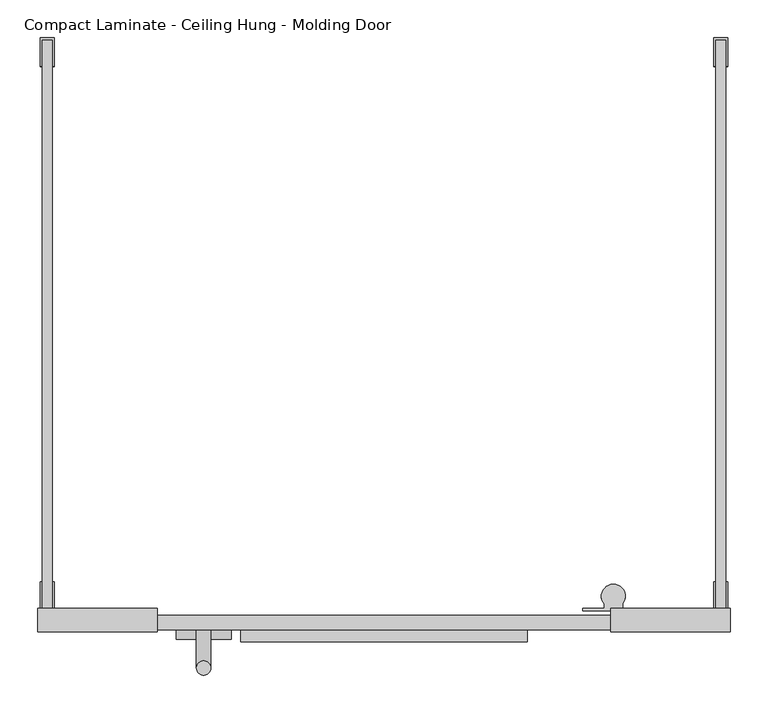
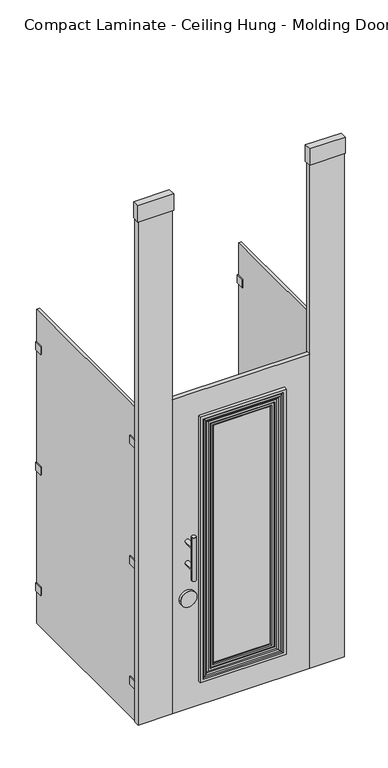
"""IFC4 building model written with IfcOpenShell, lengths in millimetres: proxy geometry, Toilet-Partition_Ironwood-Mfg_Compact-Laminate : Compact Laminate - Ceiling Hung - Molding Door."""

import ifcopenshell
import ifcopenshell.guid

model = None  # the IFC model being written
_history = None  # IfcOwnerHistory: only IFC2X3 demands one
_inside = {}  # id of a spatial element -> (the spatial element, [elements in it])
_under = {}  # id of a project, library or spatial element -> (it, [spatial elements below it])
_declared = {}  # id of a project -> (the project, [libraries it declares])
_typed = {}  # id of a type object -> (the type object, [elements of that type])
_made_of = {}  # id of a material, layer set ... -> (it, [elements and type objects made of it])


def new_model(schema):
    """Start an empty IFC model of exactly this schema.

    Asked for "IFC4X3", IfcOpenShell would pick the latest addendum, in which some entities
    have other attributes; the version numbers below select the first issue.
    IFC2X3 requires an IfcOwnerHistory on every rooted entity: one is made here for all.
    """
    global model, _history
    if schema == "IFC4X3":
        model = ifcopenshell.file(schema_version=(4, 3, 0, 0))
    else:
        model = ifcopenshell.file(schema=schema)
    _inside.clear()
    _under.clear()
    _declared.clear()
    _typed.clear()
    _made_of.clear()
    _history = None
    if model.schema == "IFC2X3":
        org = make("IfcOrganization", Name="unknown")
        user = make(
            "IfcPersonAndOrganization",
            ThePerson=make("IfcPerson", FamilyName="unknown"),
            TheOrganization=org,
        )
        app = make(
            "IfcApplication",
            ApplicationDeveloper=org,
            Version="unknown",
            ApplicationFullName="unknown",
            ApplicationIdentifier="unknown",
        )
        _history = make(
            "IfcOwnerHistory",
            OwningUser=user,
            OwningApplication=app,
            ChangeAction="ADDED",
            CreationDate=0,
        )
    return model


def make(cls, **values):
    """One entity of the class cls with the attributes given. An attribute that is None is left unset."""
    return model.create_entity(
        cls, **{name: value for name, value in values.items() if value is not None}
    )


def rooted(cls, **values):
    """An entity with a GlobalId (a new one), such as an element, a storey or a relation."""
    return make(cls, GlobalId=ifcopenshell.guid.new(), OwnerHistory=_history, **values)


def si_unit(unit_type, name, prefix=None):
    """IfcSIUnit, for example si_unit("LENGTHUNIT", "METRE", prefix="MILLI")."""
    return make("IfcSIUnit", UnitType=unit_type, Prefix=prefix, Name=name)


def assignment(units):
    """IfcUnitAssignment: the units of a project."""
    return None if units is None else make("IfcUnitAssignment", Units=units)


def point(xyz):
    """IfcCartesianPoint."""
    return None if xyz is None else make("IfcCartesianPoint", Coordinates=xyz)


def direction(xyz):
    """IfcDirection."""
    return None if xyz is None else make("IfcDirection", DirectionRatios=xyz)


def frame(location, z_axis=None, x_axis=None):
    """IfcAxis2Placement3D, a coordinate frame: its origin and axes. An axis left out is left unset."""
    return make(
        "IfcAxis2Placement3D",
        Location=point(location),
        Axis=direction(z_axis),
        RefDirection=direction(x_axis),
    )


def frame_2d(location, x_axis=None):
    """IfcAxis2Placement2D, a coordinate frame in the plane: its origin and x axis."""
    return make(
        "IfcAxis2Placement2D", Location=point(location), RefDirection=direction(x_axis)
    )


def origin():
    """The frame at (0, 0, 0) with its axes left unset."""
    return frame((0.0, 0.0, 0.0))


def place(relative_to, where):
    """IfcLocalPlacement: puts the frame where relative to a parent placement (None: the world)."""
    return make(
        "IfcLocalPlacement", PlacementRelTo=relative_to, RelativePlacement=where
    )


def context(
    kind, dimensions, precision=None, world=None, true_north=None, identifier=None
):
    """IfcGeometricRepresentationContext, for example the 3D "Model" context."""
    return make(
        "IfcGeometricRepresentationContext",
        ContextIdentifier=identifier,
        ContextType=kind,
        CoordinateSpaceDimension=dimensions,
        Precision=precision,
        WorldCoordinateSystem=world,
        TrueNorth=true_north,
    )


def project(units=None, contexts=None):
    """IfcProject with its units and contexts."""
    return rooted(
        "IfcProject",
        Name="project",
        RepresentationContexts=contexts,
        UnitsInContext=assignment(units),
    )


def spatial(cls, under=None, at=None, **own):
    """A site, building, storey or space (cls), placed at a placement, below another one or the project."""
    s = rooted(cls, ObjectPlacement=at, **own)
    if under is not None:
        _under.setdefault(under.id(), (under, []))[1].append(s)
    return s


def polyline(points):
    """IfcPolyline through the points."""
    return make("IfcPolyline", Points=[point(p) for p in points])


def circle_curve(where, radius):
    """IfcCircle in the frame where."""
    return make("IfcCircle", Position=where, Radius=radius)


def ellipse_curve(where, semi_axis1, semi_axis2):
    """IfcEllipse in the frame where."""
    return make(
        "IfcEllipse", Position=where, SemiAxis1=semi_axis1, SemiAxis2=semi_axis2
    )


def trimmed(basis, trim1, trim2, sense, master):
    """IfcTrimmedCurve: the piece of a basis curve between two trims."""
    return make(
        "IfcTrimmedCurve",
        BasisCurve=basis,
        Trim1=trim1,
        Trim2=trim2,
        SenseAgreement=sense,
        MasterRepresentation=master,
    )


def segment(curve, same_sense, transition):
    """IfcCompositeCurveSegment."""
    return make(
        "IfcCompositeCurveSegment",
        Transition=transition,
        SameSense=same_sense,
        ParentCurve=curve,
    )


def composite_curve(segments, self_intersect=None):
    """IfcCompositeCurve: segments joined end to end."""
    return make("IfcCompositeCurve", Segments=segments, SelfIntersect=self_intersect)


def outline(outer, holes=None, kind="AREA"):
    """IfcArbitraryClosedProfileDef: a profile drawn as a closed curve; with holes, ...WithVoids."""
    if holes is None:
        return make("IfcArbitraryClosedProfileDef", ProfileType=kind, OuterCurve=outer)
    return make(
        "IfcArbitraryProfileDefWithVoids",
        ProfileType=kind,
        OuterCurve=outer,
        InnerCurves=holes,
    )


def extrude(swept, where, along, depth):
    """IfcExtrudedAreaSolid: the profile swept, set in the frame where, extruded along a direction by depth."""
    return make(
        "IfcExtrudedAreaSolid",
        SweptArea=swept,
        Position=where,
        ExtrudedDirection=direction(along),
        Depth=depth,
    )


def shape(context_of_items, identifier, shape_type, items):
    """IfcShapeRepresentation: the items that make up one representation, for example the "Body"."""
    return make(
        "IfcShapeRepresentation",
        ContextOfItems=context_of_items,
        RepresentationIdentifier=identifier,
        RepresentationType=shape_type,
        Items=items,
    )


def source(mapping_origin, context_of_items, identifier, shape_type, items):
    """IfcRepresentationMap: a shape defined once, which mapped items show again and again."""
    return make(
        "IfcRepresentationMap",
        MappingOrigin=mapping_origin,
        MappedRepresentation=shape(context_of_items, identifier, shape_type, items),
    )


def transform(
    local_origin,
    x_axis=None,
    y_axis=None,
    z_axis=None,
    scale=None,
    scale2=None,
    scale3=None,
    uniform=True,
):
    """IfcCartesianTransformationOperator3D, or its non-uniform kind. x_axis, y_axis, z_axis: its Axis1, 2, 3."""
    if uniform:
        return make(
            "IfcCartesianTransformationOperator3D",
            Axis1=direction(x_axis),
            Axis2=direction(y_axis),
            LocalOrigin=point(local_origin),
            Scale=scale,
            Axis3=direction(z_axis),
        )
    return make(
        "IfcCartesianTransformationOperator3DnonUniform",
        Axis1=direction(x_axis),
        Axis2=direction(y_axis),
        LocalOrigin=point(local_origin),
        Scale=scale,
        Axis3=direction(z_axis),
        Scale2=scale2,
        Scale3=scale3,
    )


def mapped(mapping_source, mapping_target):
    """IfcMappedItem: shows the shape of a source again, moved by a transform."""
    return make(
        "IfcMappedItem", MappingSource=mapping_source, MappingTarget=mapping_target
    )


def made_of(thing, what):
    """Note that an element or type object is made of a material, layer set ...; save() writes the relation."""
    if what is not None:
        _made_of.setdefault(what.id(), (what, []))[1].append(thing)
    return thing


def element(
    cls,
    number,
    at=None,
    inside=None,
    cuts=None,
    type_object=None,
    material=None,
    context=None,
    identifier="Body",
    shape_type=None,
    held_by="IfcProductDefinitionShape",
    body=None,
    shapes=None,
    **own,
):
    """One element of the class cls, such as IfcWall. Its Tag is "e" and its number.

    at: its placement. inside: the storey or other place that contains it. cuts: it is an
    opening in that element (IfcRelVoidsElement). A single representation is given by context,
    identifier, shape_type and body (its items); several are given by shapes. held_by: the class
    of the entity that holds the representations. save() writes the other relations.
    """
    e = rooted(cls, Tag="e%d" % number, ObjectPlacement=at, **own)
    if body is not None:
        shapes = [shape(context, identifier, shape_type, body)]
    if shapes is not None:
        e.Representation = make(held_by, Representations=shapes)
    if inside is not None:
        _inside.setdefault(inside.id(), (inside, []))[1].append(e)
    if cuts is not None:
        rooted(
            "IfcRelVoidsElement", RelatingBuildingElement=cuts, RelatedOpeningElement=e
        )
    if type_object is not None:
        _typed.setdefault(type_object.id(), (type_object, []))[1].append(e)
    return made_of(e, material)


def aggregate(whole, parts):
    """IfcRelAggregates: a whole, such as a stair, and the parts it consists of."""
    return rooted("IfcRelAggregates", RelatingObject=whole, RelatedObjects=parts)


def save(model, path):
    """Write the relations noted so far, then the file.

    IfcRelAggregates (storeys below a building ...), IfcRelContainedInSpatialStructure (elements
    in a storey), IfcRelDefinesByType, IfcRelAssociatesMaterial and IfcRelDeclares: one each for
    every whole, place, type object, material and project.
    """
    for whole, parts in _under.values():
        aggregate(whole, parts)
    for where, things in _inside.values():
        rooted(
            "IfcRelContainedInSpatialStructure",
            RelatedElements=things,
            RelatingStructure=where,
        )
    for kind, things in _typed.values():
        rooted("IfcRelDefinesByType", RelatedObjects=things, RelatingType=kind)
    for what, things in _made_of.values():
        rooted("IfcRelAssociatesMaterial", RelatedObjects=things, RelatingMaterial=what)
    for by, libraries in _declared.values():
        rooted("IfcRelDeclares", RelatingContext=by, RelatedDefinitions=libraries)
    model.write(path)


def plane_surface(at):
    """IfcPlane: the flat surface through the origin of the frame at, square to its z axis."""
    return make("IfcPlane", Position=at)


def cylinder_surface(at, radius):
    """IfcCylindricalSurface: all points at the distance radius from the z axis of the frame at."""
    return make("IfcCylindricalSurface", Position=at, Radius=radius)


def revolved_surface(curve, axis_point, axis_direction):
    """IfcSurfaceOfRevolution: the curve turned about the line through axis_point along axis_direction."""
    return make(
        "IfcSurfaceOfRevolution",
        SweptCurve=make("IfcArbitraryOpenProfileDef", ProfileType="CURVE", Curve=curve),
        AxisPosition=make("IfcAxis1Placement", Location=point(axis_point), Axis=direction(axis_direction)),
    )


def advanced_brep(points, edges, surfaces, faces):
    """IfcAdvancedBrep: a solid bounded by faces that lie on surfaces and meet in shared edges.

    An edge is (start, end): straight between two places in points (the first is 0);
    or (start, end, curve); or (start, end, curve, False) where it runs against its curve.
    A face is (place in surfaces, loops), or (place, loops, False) where it looks against
    its surface's normal. A loop lists edges by number (the first is 1), with a minus sign
    where the edge is run from its end to its start. The first loop is the outer one.
    """
    corners = [point(p) for p in points]
    vertices = [make("IfcVertexPoint", VertexGeometry=c) for c in corners]
    made = []
    for start, end, *more in edges:
        made.append(
            make(
                "IfcEdgeCurve",
                EdgeStart=vertices[start],
                EdgeEnd=vertices[end],
                EdgeGeometry=more[0] if more else make("IfcPolyline", Points=[corners[start], corners[end]]),
                SameSense=more[1] if len(more) > 1 else True,
            )
        )
    hull = []
    for where, loops, *sense in faces:
        bounds = []
        for j, loop in enumerate(loops):
            ring = [make("IfcOrientedEdge", EdgeElement=made[abs(k) - 1], Orientation=k > 0) for k in loop]
            bounds.append(
                make(
                    "IfcFaceOuterBound" if j == 0 else "IfcFaceBound",
                    Bound=make("IfcEdgeLoop", EdgeList=ring),
                    Orientation=True,
                )
            )
        hull.append(make("IfcAdvancedFace", Bounds=bounds, FaceSurface=surfaces[where], SameSense=sense[0] if sense else True))
    return make("IfcAdvancedBrep", Outer=make("IfcClosedShell", CfsFaces=hull))


def compact_laminate_ceiling_hung_molding_door_30a494e6(model_context):
    return source(origin(), model_context, "Body", "SolidModel", [
        extrude(outline(polyline([(542.925, -790.575), (542.925, -758.825), (701.675, -758.825), (701.675, -790.575), (542.925, -790.575)])), frame((0.0, 0.0, 2667.0), z_axis=(0.0, 0.0, 1.0), x_axis=(1.0, 0.0, 0.0)), (0.0, 0.0, 1.0), 76.1999999),
        extrude(outline(polyline([(0.0, 152.4), (25.4, 152.4), (25.4, 0.0), (0.0, 0.0), (0.0, 152.4)])), frame((546.1, -762.0, 304.8), z_axis=(1.181277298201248e-12, 0.0, 1.0), x_axis=(0.0, -1.0, 0.0)), (0.0, 0.0, 1.0), 2362.2),
        extrude(outline(polyline([(-60.325, -790.575), (-219.075, -790.575), (-219.075, -758.825), (-60.325, -758.825), (-60.325, -790.575)])), frame((0.0, 0.0, 2667.0), z_axis=(0.0, 0.0, 1.0), x_axis=(1.0, 0.0, 0.0)), (0.0, 0.0, 1.0), 76.1999999),
        extrude(outline(polyline([(0.0, -152.4), (0.0, 0.0), (25.4, 0.0), (25.4, -152.4), (0.0, -152.4)])), frame((-63.5, -762.0, 304.8), z_axis=(-1.1812772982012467e-12, 0.0, 1.0), x_axis=(0.0, -1.0, 0.0)), (0.0, 0.0, 1.0), 2362.2),
        extrude(outline(polyline([(546.1, -787.4), (-63.5, -787.4), (-63.5, -768.35), (546.1, -768.35), (546.1, -787.4)])), frame((0.0, 0.0, 304.8), z_axis=(0.0, 0.0, 1.0), x_axis=(1.0, 0.0, 0.0)), (0.0, 0.0, 1.0), 1473.2),
        extrude(outline(composite_curve([segment(trimmed(circle_curve(frame_2d((827.0875, 1.5875)), 36.5125), [point((827.0875, -34.925))], [point((827.0875, 38.1))], False, "CARTESIAN"), True, "CONTINUOUS"), segment(trimmed(circle_curve(frame_2d((827.0875, 1.5875)), 36.5125), [point((827.0875, 38.1))], [point((827.0875, -34.925))], False, "CARTESIAN"), True, "CONTINUOUS")], self_intersect=False)), frame((0.0, -800.1, 0.0), z_axis=(0.0, 1.0, 0.0), x_axis=(0.0, 0.0, 1.0)), (0.0, 0.0, 1.0), 12.7),
        advanced_brep(
        [(-7.9375, -787.4, 1092.2), (11.1125, -787.4, 1092.2), (-7.9375, -787.4, 990.6), (11.1125, -787.4, 990.6), (11.1125, -838.2, 1092.2), (-7.9375, -838.2, 1092.2), (11.1125, -838.2, 990.6), (-7.9375, -838.2, 990.6), (-7.9375, -838.2, 1143.0), (11.1125, -838.2, 1143.0), (-7.9375, -838.2, 939.8), (11.1125, -838.2, 939.8)],
        [
            (0, 1, circle_curve(frame((1.5875, -787.4, 1092.2), z_axis=(0.0, 1.0, 0.0), x_axis=(1.0, 0.0, 0.0)), 9.525)),
            (1, 0, circle_curve(frame((1.5875, -787.4, 1092.2), z_axis=(0.0, 1.0, 0.0), x_axis=(1.0, 0.0, 0.0)), 9.525)),
            (2, 3, circle_curve(frame((1.5875, -787.4, 990.6), z_axis=(0.0, 1.0, 0.0), x_axis=(1.0, 0.0, 0.0)), 9.525)),
            (3, 2, circle_curve(frame((1.5875, -787.4, 990.6), z_axis=(0.0, 1.0, 0.0), x_axis=(1.0, 0.0, 0.0)), 9.525)),
            (1, 4),
            (4, 5, ellipse_curve(frame((1.5875, -838.2, 1092.2), z_axis=(0.0, 0.7071067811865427, 0.7071067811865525), x_axis=(0.0, -0.7071067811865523, 0.7071067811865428)), 13.4703842, 9.525)),
            (5, 0),
            (5, 4, ellipse_curve(frame((1.5875, -838.2, 1092.2), z_axis=(0.0, 0.7071067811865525, -0.7071067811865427), x_axis=(0.0, -0.7071067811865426, -0.7071067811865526)), 13.4703842, 9.525)),
            (3, 6),
            (6, 7, ellipse_curve(frame((1.5875, -838.2, 990.6), z_axis=(0.0, 0.7071067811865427, 0.7071067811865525), x_axis=(0.0, -0.7071067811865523, 0.7071067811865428)), 13.4703842, 9.525)),
            (7, 2),
            (7, 6, ellipse_curve(frame((1.5875, -838.2, 990.6), z_axis=(0.0, 0.7071067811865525, -0.7071067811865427), x_axis=(0.0, -0.7071067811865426, -0.7071067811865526)), 13.4703842, 9.525)),
            (8, 9, circle_curve(frame((1.5875, -838.2, 1143.0), z_axis=(0.0, 0.0, 1.0), x_axis=(1.0, 0.0, 0.0)), 9.525)),
            (9, 8, circle_curve(frame((1.5875, -838.2, 1143.0), z_axis=(0.0, 0.0, 1.0), x_axis=(1.0, 0.0, 0.0)), 9.525)),
            (10, 11, circle_curve(frame((1.5875, -838.2, 939.8), z_axis=(0.0, 0.0, -1.0), x_axis=(1.0, 0.0, 0.0)), 9.525)),
            (11, 10, circle_curve(frame((1.5875, -838.2, 939.8), z_axis=(0.0, 0.0, -1.0), x_axis=(1.0, 0.0, 0.0)), 9.525)),
            (8, 5),
            (5, 7),
            (7, 10),
            (11, 6),
            (6, 4),
            (4, 9),
        ],
        [
            plane_surface(frame((11.1125, -787.4, 1092.2), z_axis=(0.0, 1.0, 0.0), x_axis=(0.0, 0.0, -1.0))),
            cylinder_surface(frame((1.5875, -787.4, 1092.2), z_axis=(0.0, -1.0, 0.0), x_axis=(1.0, 0.0, 0.0)), 9.525),
            cylinder_surface(frame((1.5875, -787.4, 990.6), z_axis=(0.0, -1.0, 0.0), x_axis=(1.0, 0.0, 0.0)), 9.525),
            plane_surface(frame((11.1125, -838.2, 1143.0), z_axis=(0.0, 0.0, 1.0), x_axis=(0.0, 1.0, 0.0))),
            plane_surface(frame((11.1125, -838.2, 939.8), z_axis=(0.0, 0.0, -1.0), x_axis=(0.0, -1.0, 0.0))),
            cylinder_surface(frame((1.5875, -838.2, 939.8), z_axis=(0.0, 0.0, 1.0), x_axis=(1.0, 0.0, 0.0)), 9.525),
        ],
        [
            (0, [[1, 2]]),
            (0, [[3, 4]]),
            (1, [[-2, 5, 6, 7]]),
            (1, [[-1, -7, 8, -5]]),
            (2, [[-4, 9, 10, 11]]),
            (2, [[-3, -11, 12, -9]]),
            (3, [[13, 14]]),
            (4, [[15, 16]]),
            (5, [[-13, 17, 18, 19, -16, 20, 21, 22]]),
            (5, [[-14, -22, -8, -17]]),
            (5, [[-15, -19, -10, -20]]),
            (5, [[-18, -6, -21, -12]]),
        ],
    ),
        advanced_brep(
        [(414.5195881, -788.6573117, 1646.4195881), (415.7768998, -787.4, 1647.6768998), (415.7768998, -787.4, 435.1231002), (414.5195881, -788.6573117, 436.3804119), (382.8493103, -787.3167663, 1614.7493103), (384.1898558, -788.6573117, 1616.0898558), (384.1898558, -788.6573117, 466.7101442), (382.8493103, -787.3167663, 468.0506897), (368.3, -792.3903203, 1600.2), (368.3, -787.3167663, 1600.2), (368.3, -787.3167663, 482.6), (368.3, -792.3903203, 482.6), (371.8761431, -795.8339988, 1603.7761431), (371.8761431, -795.8339988, 479.0238569), (383.7857899, -797.3276278, 1615.6857899), (381.5195942, -795.8339988, 1613.4195942), (381.5195942, -795.8339988, 469.3804058), (383.7857899, -797.3276278, 467.1142101), (399.1420677, -798.1943603, 1631.0420677), (393.8806616, -797.3276278, 1625.7806616), (393.8806616, -797.3276278, 457.0193384), (399.1420677, -798.1943603, 451.7579323), (406.241729, -800.7784257, 1638.141729), (406.241729, -800.7784257, 444.658271), (415.3065117, -800.469399, 1647.2065117), (415.3065117, -800.469399, 435.5934883), (419.1, -803.275, 1651.0), (419.1, -803.275, 431.8), (431.8, -787.4, 1663.7), (431.8, -803.275, 1663.7), (431.8, -803.275, 419.1), (431.8, -787.4, 419.1), (66.8231002, -787.4, 435.1231002), (68.0804119, -788.6573117, 436.3804119), (98.4101442, -788.6573117, 466.7101442), (99.7506897, -787.3167663, 468.0506897), (114.3, -787.3167663, 482.6), (114.3, -792.3903203, 482.6), (110.7238569, -795.8339988, 479.0238569), (101.0804058, -795.8339988, 469.3804058), (98.8142101, -797.3276278, 467.1142101), (88.7193384, -797.3276278, 457.0193384), (83.4579323, -798.1943603, 451.7579323), (76.358271, -800.7784257, 444.658271), (67.2934883, -800.469399, 435.5934883), (63.5, -803.275, 431.8), (50.8, -803.275, 419.1), (50.8, -787.4, 419.1), (66.8231002, -787.4, 1647.6768998), (68.0804119, -788.6573117, 1646.4195881), (98.4101442, -788.6573117, 1616.0898558), (99.7506897, -787.3167663, 1614.7493103), (114.3, -787.3167663, 1600.2), (114.3, -792.3903203, 1600.2), (110.7238569, -795.8339988, 1603.7761431), (101.0804058, -795.8339988, 1613.4195942), (98.8142101, -797.3276278, 1615.6857899), (88.7193384, -797.3276278, 1625.7806616), (83.4579323, -798.1943603, 1631.0420677), (76.358271, -800.7784257, 1638.141729), (67.2934883, -800.469399, 1647.2065117), (63.5, -803.275, 1651.0), (50.8, -803.275, 1663.7), (50.8, -787.4, 1663.7)],
        [
            (0, 1),
            (1, 2),
            (2, 3),
            (3, 0),
            (4, 5),
            (5, 6),
            (6, 7),
            (7, 4),
            (8, 9),
            (9, 10),
            (10, 11),
            (11, 8),
            (12, 8, ellipse_curve(frame((371.8761431, -792.2553079, 1603.7761431), z_axis=(0.7071067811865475, 0.0, -0.7071067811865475), x_axis=(0.7071067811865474, 0.0, 0.7071067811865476)), 5.0610331, 3.5786908)),
            (11, 13, ellipse_curve(frame((371.8761431, -792.2553079, 479.0238569), z_axis=(0.7071067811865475, 0.0, 0.7071067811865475), x_axis=(-0.7071067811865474, 0.0, 0.7071067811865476)), 5.0610331, 3.5786908)),
            (13, 12),
            (14, 15, ellipse_curve(frame((383.7857899, -794.8616303, 1615.6857899), z_axis=(0.7071067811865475, 0.0, -0.7071067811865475), x_axis=(0.7071067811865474, 0.0, 0.7071067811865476)), 3.487447, 2.4659974)),
            (15, 16),
            (16, 17, ellipse_curve(frame((383.7857899, -794.8616303, 467.1142101), z_axis=(0.7071067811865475, 0.0, 0.7071067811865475), x_axis=(-0.7071067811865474, 0.0, 0.7071067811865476)), 3.487447, 2.4659974)),
            (17, 14),
            (18, 19, ellipse_curve(frame((394.2058089, -811.7566197, 1626.1058089), z_axis=(-0.7071067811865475, 0.0, 0.7071067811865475), x_axis=(-0.7071067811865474, 0.0, -0.7071067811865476)), 20.4108564, 14.432655)),
            (19, 20),
            (20, 21, ellipse_curve(frame((394.2058089, -811.7566197, 456.6941911), z_axis=(-0.7071067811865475, 0.0, -0.7071067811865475), x_axis=(0.7071067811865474, 0.0, -0.7071067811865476)), 20.4108564, 14.432655)),
            (21, 18),
            (22, 18),
            (21, 23),
            (23, 22),
            (24, 22, ellipse_curve(frame((410.3907719, -789.379024, 1642.2907719), z_axis=(0.7071067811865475, 0.0, -0.7071067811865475), x_axis=(0.7071067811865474, 0.0, 0.7071067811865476)), 17.1558104, 12.1309899)),
            (23, 25, ellipse_curve(frame((410.3907719, -789.379024, 440.5092281), z_axis=(0.7071067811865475, 0.0, 0.7071067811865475), x_axis=(-0.7071067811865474, 0.0, 0.7071067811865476)), 17.1558104, 12.1309899)),
            (25, 24),
            (26, 24, ellipse_curve(frame((419.1, -799.307588, 1651.0), z_axis=(0.7071067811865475, 0.0, -0.7071067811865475), x_axis=(0.7071067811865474, 0.0, 0.7071067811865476)), 5.6107679, 3.967412)),
            (25, 27, ellipse_curve(frame((419.1, -799.307588, 431.8), z_axis=(0.7071067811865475, 0.0, 0.7071067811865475), x_axis=(-0.7071067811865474, 0.0, 0.7071067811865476)), 5.6107679, 3.967412)),
            (27, 26),
            (28, 29),
            (29, 30),
            (30, 31),
            (31, 28),
            (2, 32),
            (32, 33),
            (33, 3),
            (6, 34),
            (34, 35),
            (35, 7),
            (10, 36),
            (36, 37),
            (37, 11),
            (37, 38, ellipse_curve(frame((110.7238569, -792.2553079, 479.0238569), z_axis=(0.7071067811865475, 0.0, -0.7071067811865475), x_axis=(0.7071067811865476, 0.0, 0.7071067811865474)), 5.0610331, 3.5786908)),
            (38, 13),
            (16, 39),
            (39, 40, ellipse_curve(frame((98.8142101, -794.8616303, 467.1142101), z_axis=(0.7071067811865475, 0.0, -0.7071067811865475), x_axis=(0.7071067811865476, 0.0, 0.7071067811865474)), 3.487447, 2.4659974)),
            (40, 17),
            (20, 41),
            (41, 42, ellipse_curve(frame((88.3941911, -811.7566197, 456.6941911), z_axis=(-0.7071067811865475, 0.0, 0.7071067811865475), x_axis=(-0.7071067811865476, 0.0, -0.7071067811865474)), 20.4108564, 14.432655)),
            (42, 21),
            (42, 43),
            (43, 23),
            (43, 44, ellipse_curve(frame((72.2092281, -789.379024, 440.5092281), z_axis=(0.7071067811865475, 0.0, -0.7071067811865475), x_axis=(0.7071067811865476, 0.0, 0.7071067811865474)), 17.1558104, 12.1309899)),
            (44, 25),
            (44, 45, ellipse_curve(frame((63.5, -799.307588, 431.8), z_axis=(0.7071067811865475, 0.0, -0.7071067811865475), x_axis=(0.7071067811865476, 0.0, 0.7071067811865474)), 5.6107679, 3.967412)),
            (45, 27),
            (30, 46),
            (46, 47),
            (47, 31),
            (32, 48),
            (48, 49),
            (49, 33),
            (34, 50),
            (50, 51),
            (51, 35),
            (36, 52),
            (52, 53),
            (53, 37),
            (53, 54, ellipse_curve(frame((110.7238569, -792.2553079, 1603.7761431), z_axis=(-0.7071067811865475, 0.0, -0.7071067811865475), x_axis=(0.7071067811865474, 0.0, -0.7071067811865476)), 5.0610331, 3.5786908)),
            (54, 38),
            (39, 55),
            (55, 56, ellipse_curve(frame((98.8142101, -794.8616303, 1615.6857899), z_axis=(-0.7071067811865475, 0.0, -0.7071067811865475), x_axis=(0.7071067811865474, 0.0, -0.7071067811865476)), 3.487447, 2.4659974)),
            (56, 40),
            (41, 57),
            (57, 58, ellipse_curve(frame((88.3941911, -811.7566197, 1626.1058089), z_axis=(0.7071067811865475, 0.0, 0.7071067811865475), x_axis=(-0.7071067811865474, 0.0, 0.7071067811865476)), 20.4108564, 14.432655)),
            (58, 42),
            (58, 59),
            (59, 43),
            (59, 60, ellipse_curve(frame((72.2092281, -789.379024, 1642.2907719), z_axis=(-0.7071067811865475, 0.0, -0.7071067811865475), x_axis=(0.7071067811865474, 0.0, -0.7071067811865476)), 17.1558104, 12.1309899)),
            (60, 44),
            (60, 61, ellipse_curve(frame((63.5, -799.307588, 1651.0), z_axis=(-0.7071067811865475, 0.0, -0.7071067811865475), x_axis=(0.7071067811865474, 0.0, -0.7071067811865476)), 5.6107679, 3.967412)),
            (61, 45),
            (46, 62),
            (62, 63),
            (63, 47),
            (63, 28),
            (1, 48),
            (0, 49),
            (5, 50),
            (4, 51),
            (9, 52),
            (8, 53),
            (12, 54),
            (15, 55),
            (14, 56),
            (19, 57),
            (18, 58),
            (22, 59),
            (24, 60),
            (26, 61),
            (29, 62),
        ],
        [
            plane_surface(frame((415.7768998, -787.4, 1647.6768998), z_axis=(-0.7071067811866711, 0.7071067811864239, 0.0), x_axis=(0.0, 0.0, -1.0))),
            plane_surface(frame((384.1898558, -788.6573117, 1616.0898558), z_axis=(0.7071067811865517, 0.7071067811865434, 0.0), x_axis=(0.0, 0.0, -1.0))),
            plane_surface(frame((368.3, -787.3167663, 1600.2), z_axis=(-1.0, 0.0, 0.0), x_axis=(0.0, 0.0, -1.0))),
            cylinder_surface(frame((371.8761431, -792.2553079, 1663.7), z_axis=(0.0, 0.0, 1.0), x_axis=(1.0, 0.0, 0.0)), 3.5786908),
            cylinder_surface(frame((383.7857899, -794.8616303, 1663.7), z_axis=(0.0, 0.0, 1.0), x_axis=(1.0, 0.0, 0.0)), 2.4659974),
            revolved_surface(polyline([(408.63846390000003, -811.7566197, 442.2615361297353), (408.63846390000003, -811.7566197, 1640.5384638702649)]), (394.2058089, -811.7566197, 1663.7), (0.0, 0.0, -1.0)),
            plane_surface(frame((399.1420677, -798.1943603, 1631.0420677), z_axis=(-0.34202014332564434, -0.9396926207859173, 0.0), x_axis=(0.0, 0.0, -1.0))),
            cylinder_surface(frame((410.3907719, -789.379024, 1663.7), z_axis=(0.0, 0.0, 1.0), x_axis=(1.0, 0.0, 0.0)), 12.1309899),
            cylinder_surface(frame((419.1, -799.307588, 1663.7), z_axis=(0.0, 0.0, 1.0), x_axis=(1.0, 0.0, 0.0)), 3.967412),
            plane_surface(frame((431.8, -803.275, 1663.7), z_axis=(1.0, 0.0, 0.0), x_axis=(0.0, 0.0, -1.0))),
            plane_surface(frame((415.7768998, -787.4, 435.1231002), z_axis=(0.0, 0.7071067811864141, 0.7071067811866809), x_axis=(-1.0, 0.0, 0.0))),
            plane_surface(frame((384.1898558, -788.6573117, 466.7101442), z_axis=(0.0, 0.7071067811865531, -0.7071067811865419), x_axis=(-1.0, 0.0, 0.0))),
            plane_surface(frame((368.3, -787.3167663, 482.6), z_axis=(0.0, 0.0, 1.0), x_axis=(-1.0, 0.0, 0.0))),
            cylinder_surface(frame((431.8, -792.2553079, 479.0238569), z_axis=(1.0, 0.0, 0.0), x_axis=(0.0, 0.0, -1.0)), 3.5786908),
            cylinder_surface(frame((431.8, -794.8616303, 467.1142101), z_axis=(1.0, 0.0, 0.0), x_axis=(0.0, 0.0, -1.0)), 2.4659974),
            revolved_surface(polyline([(73.96153612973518, -811.7566197, 442.2615361), (408.63846387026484, -811.7566197, 442.2615361)]), (431.8, -811.7566197, 456.6941911), (-1.0, 0.0, 0.0)),
            plane_surface(frame((399.1420677, -798.1943603, 451.7579323), z_axis=(0.0, -0.9396926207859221, 0.34202014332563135), x_axis=(-1.0, 0.0, 0.0))),
            cylinder_surface(frame((431.8, -789.379024, 440.5092281), z_axis=(1.0, 0.0, 0.0), x_axis=(0.0, 0.0, -1.0)), 12.1309899),
            cylinder_surface(frame((431.8, -799.307588, 431.8), z_axis=(1.0, 0.0, 0.0), x_axis=(0.0, 0.0, -1.0)), 3.967412),
            plane_surface(frame((431.8, -803.275, 419.1), z_axis=(0.0, 0.0, -1.0), x_axis=(-1.0, 0.0, 0.0))),
            plane_surface(frame((66.8231002, -787.4, 435.1231002), z_axis=(0.7071067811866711, 0.7071067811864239, 0.0), x_axis=(0.0, 0.0, 1.0))),
            plane_surface(frame((98.4101442, -788.6573117, 466.7101442), z_axis=(-0.7071067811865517, 0.7071067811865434, 0.0), x_axis=(0.0, 0.0, 1.0))),
            plane_surface(frame((114.3, -787.3167663, 482.6), z_axis=(1.0, 0.0, 0.0), x_axis=(0.0, 0.0, 1.0))),
            cylinder_surface(frame((110.7238569, -792.2553079, 419.1), z_axis=(0.0, 0.0, -1.0), x_axis=(-1.0, 0.0, 0.0)), 3.5786908),
            cylinder_surface(frame((98.8142101, -794.8616303, 419.1), z_axis=(0.0, 0.0, -1.0), x_axis=(-1.0, 0.0, 0.0)), 2.4659974),
            revolved_surface(polyline([(73.9615361, -811.7566197, 1640.5384638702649), (73.9615361, -811.7566197, 442.2615361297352)]), (88.3941911, -811.7566197, 419.1), (0.0, 0.0, 1.0)),
            plane_surface(frame((83.4579323, -798.1943603, 451.7579323), z_axis=(0.34202014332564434, -0.9396926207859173, 0.0), x_axis=(0.0, 0.0, 1.0))),
            cylinder_surface(frame((72.2092281, -789.379024, 419.1), z_axis=(0.0, 0.0, -1.0), x_axis=(-1.0, 0.0, 0.0)), 12.1309899),
            cylinder_surface(frame((63.5, -799.307588, 419.1), z_axis=(0.0, 0.0, -1.0), x_axis=(-1.0, 0.0, 0.0)), 3.967412),
            plane_surface(frame((50.8, -803.275, 419.1), z_axis=(-1.0, 0.0, 0.0), x_axis=(0.0, 0.0, 1.0))),
            plane_surface(frame((50.8, -787.4, 1663.7), z_axis=(0.0, 1.0, 0.0), x_axis=(1.0, 0.0, 0.0))),
            plane_surface(frame((66.8231002, -787.4, 1647.6768998), z_axis=(0.0, 0.7071067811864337, -0.7071067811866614), x_axis=(1.0, 0.0, 0.0))),
            plane_surface(frame((68.0804119, -788.6573117, 1646.4195881), z_axis=(0.0, 1.0, 0.0), x_axis=(1.0, 0.0, 0.0))),
            plane_surface(frame((98.4101442, -788.6573117, 1616.0898558), z_axis=(0.0, 0.7071067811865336, 0.7071067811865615), x_axis=(1.0, 0.0, 0.0))),
            plane_surface(frame((99.7506897, -787.3167663, 1614.7493103), z_axis=(0.0, 1.0, 0.0), x_axis=(1.0, 0.0, 0.0))),
            plane_surface(frame((114.3, -787.3167663, 1600.2), z_axis=(0.0, 0.0, -1.0), x_axis=(1.0, 0.0, 0.0))),
            cylinder_surface(frame((50.8, -792.2553079, 1603.7761431), z_axis=(-1.0, 0.0, 0.0), x_axis=(0.0, 0.0, 1.0)), 3.5786908),
            plane_surface(frame((110.7238569, -795.8339988, 1603.7761431), z_axis=(0.0, -1.0, 0.0), x_axis=(1.0, 0.0, 0.0))),
            cylinder_surface(frame((50.8, -794.8616303, 1615.6857899), z_axis=(-1.0, 0.0, 0.0), x_axis=(0.0, 0.0, 1.0)), 2.4659974),
            plane_surface(frame((98.8142101, -797.3276278, 1615.6857899), z_axis=(0.0, -1.0, 0.0), x_axis=(1.0, 0.0, 0.0))),
            revolved_surface(polyline([(408.63846387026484, -811.7566197, 1640.5384639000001), (73.96153612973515, -811.7566197, 1640.5384639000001)]), (50.8, -811.7566197, 1626.1058089), (1.0, 0.0, 0.0)),
            plane_surface(frame((83.4579323, -798.1943603, 1631.0420677), z_axis=(0.0, -0.9396926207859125, -0.34202014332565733), x_axis=(1.0, 0.0, 0.0))),
            cylinder_surface(frame((50.8, -789.379024, 1642.2907719), z_axis=(-1.0, 0.0, 0.0), x_axis=(0.0, 0.0, 1.0)), 12.1309899),
            cylinder_surface(frame((50.8, -799.307588, 1651.0), z_axis=(-1.0, 0.0, 0.0), x_axis=(0.0, 0.0, 1.0)), 3.967412),
            plane_surface(frame((63.5, -803.275, 1651.0), z_axis=(0.0, -1.0, 0.0), x_axis=(1.0, 0.0, 0.0))),
            plane_surface(frame((50.8, -803.275, 1663.7), z_axis=(0.0, 0.0, 1.0), x_axis=(1.0, 0.0, 0.0))),
        ],
        [
            (0, [[1, 2, 3, 4]]),
            (1, [[5, 6, 7, 8]]),
            (2, [[9, 10, 11, 12]]),
            (3, [[13, -12, 14, 15]]),
            (4, [[16, 17, 18, 19]]),
            (5, [[20, 21, 22, 23]]),
            (6, [[24, -23, 25, 26]]),
            (7, [[27, -26, 28, 29]]),
            (8, [[30, -29, 31, 32]]),
            (9, [[33, 34, 35, 36]]),
            (10, [[-3, 37, 38, 39]]),
            (11, [[-7, 40, 41, 42]]),
            (12, [[-11, 43, 44, 45]]),
            (13, [[-14, -45, 46, 47]]),
            (14, [[-18, 48, 49, 50]]),
            (15, [[-22, 51, 52, 53]]),
            (16, [[-25, -53, 54, 55]]),
            (17, [[-28, -55, 56, 57]]),
            (18, [[-31, -57, 58, 59]]),
            (19, [[-35, 60, 61, 62]]),
            (20, [[-38, 63, 64, 65]]),
            (21, [[-41, 66, 67, 68]]),
            (22, [[-44, 69, 70, 71]]),
            (23, [[-46, -71, 72, 73]]),
            (24, [[-49, 74, 75, 76]]),
            (25, [[-52, 77, 78, 79]]),
            (26, [[-54, -79, 80, 81]]),
            (27, [[-56, -81, 82, 83]]),
            (28, [[-58, -83, 84, 85]]),
            (29, [[-61, 86, 87, 88]]),
            (30, [[-62, -88, 89, -36], [90, -63, -37, -2]]),
            (31, [[-64, -90, -1, 91]]),
            (32, [[-39, -65, -91, -4], [92, -66, -40, -6]]),
            (33, [[-67, -92, -5, 93]]),
            (34, [[-42, -68, -93, -8], [94, -69, -43, -10]]),
            (35, [[-70, -94, -9, 95]]),
            (36, [[-72, -95, -13, 96]]),
            (37, [[97, -74, -48, -17], [-47, -73, -96, -15]]),
            (38, [[-75, -97, -16, 98]]),
            (39, [[99, -77, -51, -21], [-50, -76, -98, -19]]),
            (40, [[-78, -99, -20, 100]]),
            (41, [[-80, -100, -24, 101]]),
            (42, [[-82, -101, -27, 102]]),
            (43, [[-84, -102, -30, 103]]),
            (44, [[104, -86, -60, -34], [-59, -85, -103, -32]]),
            (45, [[-87, -104, -33, -89]]),
        ],
    ),
        extrude(outline(composite_curve([segment(polyline([(581.3737081, -762.0), (505.1737081, -762.0), (505.1737081, -758.825), (533.7487081, -758.825), (533.7487081, -752.9581331)]), True, "CONTINUOUS"), segment(trimmed(circle_curve(frame_2d((546.1, -742.8902139)), 15.9347861), [point((533.7487081, -752.9581331))], [point((558.4512919, -752.9581331))], False, "CARTESIAN"), True, "CONTINUOUS"), segment(polyline([(558.4512919, -752.9581331), (558.4512919, -758.825), (581.3737081, -758.825), (581.3737081, -762.0)]), True, "CONTINUOUS")], self_intersect=False)), frame((0.0, 0.0, 1574.8), z_axis=(0.0, 0.0, 1.0), x_axis=(1.0, 0.0, 0.0)), (0.0, 0.0, 1.0), 63.5),
        extrude(outline(composite_curve([segment(polyline([(581.3737081, -762.0), (505.1737081, -762.0), (505.1737081, -758.825), (533.7487081, -758.825), (533.7487081, -752.9581331)]), True, "CONTINUOUS"), segment(trimmed(circle_curve(frame_2d((546.1, -742.8902139)), 15.9347861), [point((533.7487081, -752.9581331))], [point((558.4512919, -752.9581331))], False, "CARTESIAN"), True, "CONTINUOUS"), segment(polyline([(558.4512919, -752.9581331), (558.4512919, -758.825), (581.3737081, -758.825), (581.3737081, -762.0)]), True, "CONTINUOUS")], self_intersect=False)), frame((0.0, 0.0, 1009.6500001), z_axis=(0.0, 0.0, 1.0), x_axis=(1.0, 0.0, 0.0)), (0.0, 0.0, 1.0), 63.5),
        extrude(outline(composite_curve([segment(polyline([(581.3737081, -762.0), (505.1737081, -762.0), (505.1737081, -758.825), (533.7487081, -758.825), (533.7487081, -752.9581331)]), True, "CONTINUOUS"), segment(trimmed(circle_curve(frame_2d((546.1, -742.8902139)), 15.9347861), [point((533.7487081, -752.9581331))], [point((558.4512919, -752.9581331))], False, "CARTESIAN"), True, "CONTINUOUS"), segment(polyline([(558.4512919, -752.9581331), (558.4512919, -758.825), (581.3737081, -758.825), (581.3737081, -762.0)]), True, "CONTINUOUS")], self_intersect=False)), frame((0.0, 0.0, 444.5), z_axis=(0.0, 0.0, 1.0), x_axis=(1.0, 0.0, 0.0)), (0.0, 0.0, 1.0), 63.5),
        extrude(outline(polyline([(682.498, -723.9), (682.498, -758.825), (695.198, -758.825), (695.198, -723.9), (698.373, -723.9), (698.373, -762.0), (679.323, -762.0), (679.323, -723.9), (682.498, -723.9)])), frame((0.0, 0.0, 1587.8188137), z_axis=(0.0, 0.0, 1.0), x_axis=(1.0, 0.0, 0.0)), (0.0, 0.0, 1.0), 38.1),
        extrude(outline(polyline([(682.498, -38.1), (679.323, -38.1), (679.323, 0.0), (698.373, 0.0), (698.373, -38.1), (695.198, -38.1), (695.198, -3.175), (682.498, -3.175), (682.498, -38.1)])), frame((0.0, 0.0, 1587.8188137), z_axis=(0.0, 0.0, 1.0), x_axis=(1.0, 0.0, 0.0)), (0.0, 0.0, 1.0), 38.1),
        extrude(outline(polyline([(682.498, -723.9), (682.498, -758.825), (695.198, -758.825), (695.198, -723.9), (698.373, -723.9), (698.373, -762.0), (679.323, -762.0), (679.323, -723.9), (682.498, -723.9)])), frame((0.0, 0.0, 1022.35), z_axis=(0.0, 0.0, 1.0), x_axis=(1.0, 0.0, 0.0)), (0.0, 0.0, 1.0), 38.1),
        extrude(outline(polyline([(682.498, -38.1), (679.323, -38.1), (679.323, 0.0), (698.373, 0.0), (698.373, -38.1), (695.198, -38.1), (695.198, -3.175), (682.498, -3.175), (682.498, -38.1)])), frame((0.0, 0.0, 1022.35), z_axis=(0.0, 0.0, 1.0), x_axis=(1.0, 0.0, 0.0)), (0.0, 0.0, 1.0), 38.1),
        extrude(outline(polyline([(682.498, -723.9), (682.498, -758.825), (695.198, -758.825), (695.198, -723.9), (698.373, -723.9), (698.373, -762.0), (679.323, -762.0), (679.323, -723.9), (682.498, -723.9)])), frame((0.0, 0.0, 457.2), z_axis=(0.0, 0.0, 1.0), x_axis=(1.0, 0.0, 0.0)), (0.0, 0.0, 1.0), 38.1),
        extrude(outline(polyline([(682.498, -38.1), (679.323, -38.1), (679.323, 0.0), (698.373, 0.0), (698.373, -38.1), (695.198, -38.1), (695.198, -3.175), (682.498, -3.175), (682.498, -38.1)])), frame((0.0, 0.0, 457.2), z_axis=(0.0, 0.0, 1.0), x_axis=(1.0, 0.0, 0.0)), (0.0, 0.0, 1.0), 38.1),
        extrude(outline(polyline([(-212.598, -723.9), (-212.598, -758.825), (-199.898, -758.825), (-199.898, -723.9), (-196.723, -723.9), (-196.723, -762.0), (-215.773, -762.0), (-215.773, -723.9), (-212.598, -723.9)])), frame((0.0, 0.0, 1587.8188137), z_axis=(0.0, 0.0, 1.0), x_axis=(1.0, 0.0, 0.0)), (0.0, 0.0, 1.0), 38.1),
        extrude(outline(polyline([(-212.598, -38.1), (-215.773, -38.1), (-215.773, 0.0), (-196.723, 0.0), (-196.723, -38.1), (-199.898, -38.1), (-199.898, -3.175), (-212.598, -3.175), (-212.598, -38.1)])), frame((0.0, 0.0, 1587.8188137), z_axis=(0.0, 0.0, 1.0), x_axis=(1.0, 0.0, 0.0)), (0.0, 0.0, 1.0), 38.1),
        extrude(outline(polyline([(-212.598, -723.9), (-212.598, -758.825), (-199.898, -758.825), (-199.898, -723.9), (-196.723, -723.9), (-196.723, -762.0), (-215.773, -762.0), (-215.773, -723.9), (-212.598, -723.9)])), frame((0.0, 0.0, 1022.35), z_axis=(0.0, 0.0, 1.0), x_axis=(1.0, 0.0, 0.0)), (0.0, 0.0, 1.0), 38.1),
        extrude(outline(polyline([(-212.598, -38.1), (-215.773, -38.1), (-215.773, 0.0), (-196.723, 0.0), (-196.723, -38.1), (-199.898, -38.1), (-199.898, -3.175), (-212.598, -3.175), (-212.598, -38.1)])), frame((0.0, 0.0, 1022.35), z_axis=(0.0, 0.0, 1.0), x_axis=(1.0, 0.0, 0.0)), (0.0, 0.0, 1.0), 38.1),
        extrude(outline(polyline([(-212.598, -723.9), (-212.598, -758.825), (-199.898, -758.825), (-199.898, -723.9), (-196.723, -723.9), (-196.723, -762.0), (-215.773, -762.0), (-215.773, -723.9), (-212.598, -723.9)])), frame((0.0, 0.0, 457.2), z_axis=(0.0, 0.0, 1.0), x_axis=(1.0, 0.0, 0.0)), (0.0, 0.0, 1.0), 38.1),
        extrude(outline(polyline([(-212.598, -38.1), (-215.773, -38.1), (-215.773, 0.0), (-196.723, 0.0), (-196.723, -38.1), (-199.898, -38.1), (-199.898, -3.175), (-212.598, -3.175), (-212.598, -38.1)])), frame((0.0, 0.0, 457.2), z_axis=(0.0, 0.0, 1.0), x_axis=(1.0, 0.0, 0.0)), (0.0, 0.0, 1.0), 38.1),
        extrude(outline(polyline([(-199.898, -3.175), (-199.898, -758.825), (-212.598, -758.825), (-212.598, -3.175), (-199.898, -3.175)])), frame((0.0, 0.0, 304.8), z_axis=(0.0, 0.0, 1.0), x_axis=(1.0, 0.0, 0.0)), (0.0, 0.0, 1.0), 1473.2),
        extrude(outline(polyline([(695.198, -3.175), (695.198, -758.825), (682.498, -758.825), (682.498, -3.175), (695.198, -3.175)])), frame((0.0, 0.0, 304.8), z_axis=(0.0, 0.0, 1.0), x_axis=(1.0, 0.0, 0.0)), (0.0, 0.0, 1.0), 1473.2),
    ])


if __name__ == "__main__":
    model = new_model("IFC4")
    model_context = context("Model", 3, world=origin())
    ifc_project = project(units=[si_unit("LENGTHUNIT", "METRE", prefix="MILLI")], contexts=[model_context])
    site = spatial("IfcSite", under=ifc_project)
    building = spatial("IfcBuilding", under=site)
    placement = place(None, origin())
    compact_laminate_ceiling_hung_molding_door_shape = compact_laminate_ceiling_hung_molding_door_30a494e6(model_context)
    element("IfcBuildingElementProxy", 1, Name="Toilet-Partition_Ironwood-Mfg_Compact-Laminate : Compact Laminate - Ceiling Hung - Molding Door", ObjectType="Toilet-Partition_Ironwood-Mfg_Compact-Laminate : Compact Laminate - Ceiling Hung - Molding Door", at=placement, inside=building, context=model_context, shape_type="MappedRepresentation", body=[
        mapped(compact_laminate_ceiling_hung_molding_door_shape, transform((0.0, 0.0, 0.0), x_axis=(1.0, 0.0, 0.0), y_axis=(0.0, 1.0, 0.0), z_axis=(0.0, 0.0, 1.0))),
    ])
    save(model, "model.ifc")
